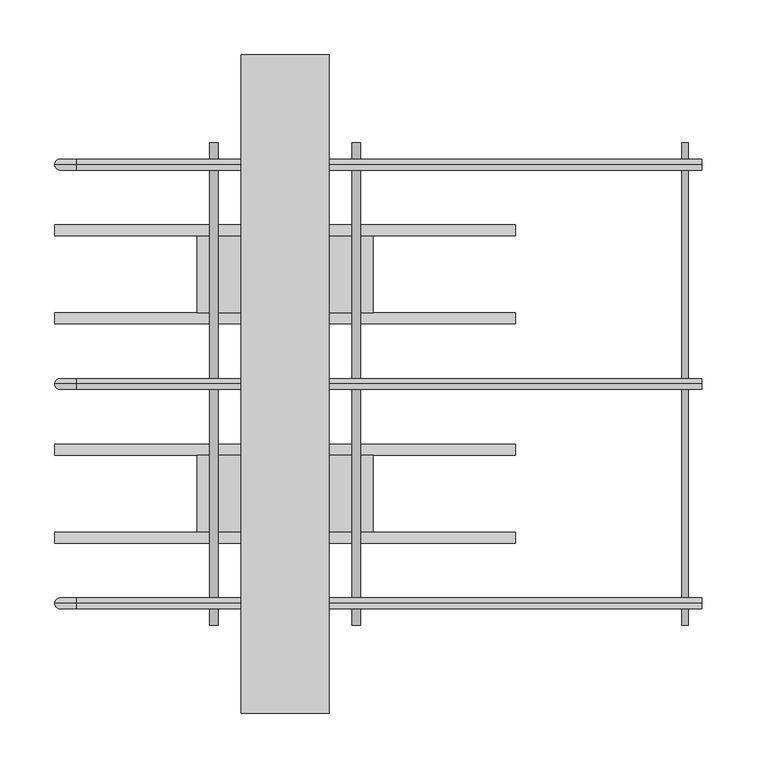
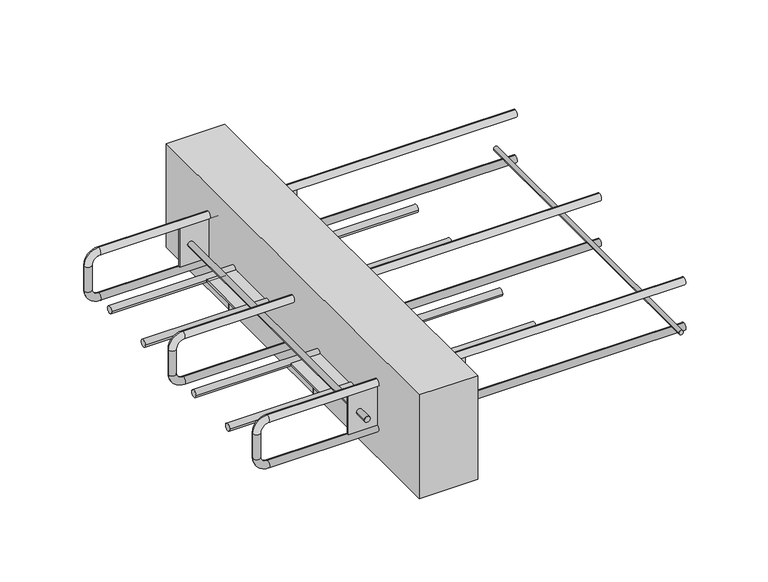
"""IFC4 building model written with IfcOpenShell, lengths in millimetres: proxy geometry, ACINOXplus_Typenreihe_UL-OL : UL+ S2."""

import ifcopenshell
import ifcopenshell.guid

model = None  # the IFC model being written
_history = None  # IfcOwnerHistory: only IFC2X3 demands one
_inside = {}  # id of a spatial element -> (the spatial element, [elements in it])
_under = {}  # id of a project, library or spatial element -> (it, [spatial elements below it])
_declared = {}  # id of a project -> (the project, [libraries it declares])
_typed = {}  # id of a type object -> (the type object, [elements of that type])
_made_of = {}  # id of a material, layer set ... -> (it, [elements and type objects made of it])


def new_model(schema):
    """Start an empty IFC model of exactly this schema.

    Asked for "IFC4X3", IfcOpenShell would pick the latest addendum, in which some entities
    have other attributes; the version numbers below select the first issue.
    IFC2X3 requires an IfcOwnerHistory on every rooted entity: one is made here for all.
    """
    global model, _history
    if schema == "IFC4X3":
        model = ifcopenshell.file(schema_version=(4, 3, 0, 0))
    else:
        model = ifcopenshell.file(schema=schema)
    _inside.clear()
    _under.clear()
    _declared.clear()
    _typed.clear()
    _made_of.clear()
    _history = None
    if model.schema == "IFC2X3":
        org = make("IfcOrganization", Name="unknown")
        user = make(
            "IfcPersonAndOrganization",
            ThePerson=make("IfcPerson", FamilyName="unknown"),
            TheOrganization=org,
        )
        app = make(
            "IfcApplication",
            ApplicationDeveloper=org,
            Version="unknown",
            ApplicationFullName="unknown",
            ApplicationIdentifier="unknown",
        )
        _history = make(
            "IfcOwnerHistory",
            OwningUser=user,
            OwningApplication=app,
            ChangeAction="ADDED",
            CreationDate=0,
        )
    return model


def make(cls, **values):
    """One entity of the class cls with the attributes given. An attribute that is None is left unset."""
    return model.create_entity(
        cls, **{name: value for name, value in values.items() if value is not None}
    )


def rooted(cls, **values):
    """An entity with a GlobalId (a new one), such as an element, a storey or a relation."""
    return make(cls, GlobalId=ifcopenshell.guid.new(), OwnerHistory=_history, **values)


def si_unit(unit_type, name, prefix=None):
    """IfcSIUnit, for example si_unit("LENGTHUNIT", "METRE", prefix="MILLI")."""
    return make("IfcSIUnit", UnitType=unit_type, Prefix=prefix, Name=name)


def assignment(units):
    """IfcUnitAssignment: the units of a project."""
    return None if units is None else make("IfcUnitAssignment", Units=units)


def point(xyz):
    """IfcCartesianPoint."""
    return None if xyz is None else make("IfcCartesianPoint", Coordinates=xyz)


def direction(xyz):
    """IfcDirection."""
    return None if xyz is None else make("IfcDirection", DirectionRatios=xyz)


def frame(location, z_axis=None, x_axis=None):
    """IfcAxis2Placement3D, a coordinate frame: its origin and axes. An axis left out is left unset."""
    return make(
        "IfcAxis2Placement3D",
        Location=point(location),
        Axis=direction(z_axis),
        RefDirection=direction(x_axis),
    )


def frame_2d(location, x_axis=None):
    """IfcAxis2Placement2D, a coordinate frame in the plane: its origin and x axis."""
    return make(
        "IfcAxis2Placement2D", Location=point(location), RefDirection=direction(x_axis)
    )


def origin():
    """The frame at (0, 0, 0) with its axes left unset."""
    return frame((0.0, 0.0, 0.0))


def place(relative_to, where):
    """IfcLocalPlacement: puts the frame where relative to a parent placement (None: the world)."""
    return make(
        "IfcLocalPlacement", PlacementRelTo=relative_to, RelativePlacement=where
    )


def context(
    kind, dimensions, precision=None, world=None, true_north=None, identifier=None
):
    """IfcGeometricRepresentationContext, for example the 3D "Model" context."""
    return make(
        "IfcGeometricRepresentationContext",
        ContextIdentifier=identifier,
        ContextType=kind,
        CoordinateSpaceDimension=dimensions,
        Precision=precision,
        WorldCoordinateSystem=world,
        TrueNorth=true_north,
    )


def project(units=None, contexts=None):
    """IfcProject with its units and contexts."""
    return rooted(
        "IfcProject",
        Name="project",
        RepresentationContexts=contexts,
        UnitsInContext=assignment(units),
    )


def spatial(cls, under=None, at=None, **own):
    """A site, building, storey or space (cls), placed at a placement, below another one or the project."""
    s = rooted(cls, ObjectPlacement=at, **own)
    if under is not None:
        _under.setdefault(under.id(), (under, []))[1].append(s)
    return s


def polyline(points):
    """IfcPolyline through the points."""
    return make("IfcPolyline", Points=[point(p) for p in points])


def circle_curve(where, radius):
    """IfcCircle in the frame where."""
    return make("IfcCircle", Position=where, Radius=radius)


def ellipse_curve(where, semi_axis1, semi_axis2):
    """IfcEllipse in the frame where."""
    return make(
        "IfcEllipse", Position=where, SemiAxis1=semi_axis1, SemiAxis2=semi_axis2
    )


def trimmed(basis, trim1, trim2, sense, master):
    """IfcTrimmedCurve: the piece of a basis curve between two trims."""
    return make(
        "IfcTrimmedCurve",
        BasisCurve=basis,
        Trim1=trim1,
        Trim2=trim2,
        SenseAgreement=sense,
        MasterRepresentation=master,
    )


def segment(curve, same_sense, transition):
    """IfcCompositeCurveSegment."""
    return make(
        "IfcCompositeCurveSegment",
        Transition=transition,
        SameSense=same_sense,
        ParentCurve=curve,
    )


def composite_curve(segments, self_intersect=None):
    """IfcCompositeCurve: segments joined end to end."""
    return make("IfcCompositeCurve", Segments=segments, SelfIntersect=self_intersect)


def outline(outer, holes=None, kind="AREA"):
    """IfcArbitraryClosedProfileDef: a profile drawn as a closed curve; with holes, ...WithVoids."""
    if holes is None:
        return make("IfcArbitraryClosedProfileDef", ProfileType=kind, OuterCurve=outer)
    return make(
        "IfcArbitraryProfileDefWithVoids",
        ProfileType=kind,
        OuterCurve=outer,
        InnerCurves=holes,
    )


def extrude(swept, where, along, depth):
    """IfcExtrudedAreaSolid: the profile swept, set in the frame where, extruded along a direction by depth."""
    return make(
        "IfcExtrudedAreaSolid",
        SweptArea=swept,
        Position=where,
        ExtrudedDirection=direction(along),
        Depth=depth,
    )


def shape(context_of_items, identifier, shape_type, items):
    """IfcShapeRepresentation: the items that make up one representation, for example the "Body"."""
    return make(
        "IfcShapeRepresentation",
        ContextOfItems=context_of_items,
        RepresentationIdentifier=identifier,
        RepresentationType=shape_type,
        Items=items,
    )


def source(mapping_origin, context_of_items, identifier, shape_type, items):
    """IfcRepresentationMap: a shape defined once, which mapped items show again and again."""
    return make(
        "IfcRepresentationMap",
        MappingOrigin=mapping_origin,
        MappedRepresentation=shape(context_of_items, identifier, shape_type, items),
    )


def transform(
    local_origin,
    x_axis=None,
    y_axis=None,
    z_axis=None,
    scale=None,
    scale2=None,
    scale3=None,
    uniform=True,
):
    """IfcCartesianTransformationOperator3D, or its non-uniform kind. x_axis, y_axis, z_axis: its Axis1, 2, 3."""
    if uniform:
        return make(
            "IfcCartesianTransformationOperator3D",
            Axis1=direction(x_axis),
            Axis2=direction(y_axis),
            LocalOrigin=point(local_origin),
            Scale=scale,
            Axis3=direction(z_axis),
        )
    return make(
        "IfcCartesianTransformationOperator3DnonUniform",
        Axis1=direction(x_axis),
        Axis2=direction(y_axis),
        LocalOrigin=point(local_origin),
        Scale=scale,
        Axis3=direction(z_axis),
        Scale2=scale2,
        Scale3=scale3,
    )


def mapped(mapping_source, mapping_target):
    """IfcMappedItem: shows the shape of a source again, moved by a transform."""
    return make(
        "IfcMappedItem", MappingSource=mapping_source, MappingTarget=mapping_target
    )


def made_of(thing, what):
    """Note that an element or type object is made of a material, layer set ...; save() writes the relation."""
    if what is not None:
        _made_of.setdefault(what.id(), (what, []))[1].append(thing)
    return thing


def element(
    cls,
    number,
    at=None,
    inside=None,
    cuts=None,
    type_object=None,
    material=None,
    context=None,
    identifier="Body",
    shape_type=None,
    held_by="IfcProductDefinitionShape",
    body=None,
    shapes=None,
    **own,
):
    """One element of the class cls, such as IfcWall. Its Tag is "e" and its number.

    at: its placement. inside: the storey or other place that contains it. cuts: it is an
    opening in that element (IfcRelVoidsElement). A single representation is given by context,
    identifier, shape_type and body (its items); several are given by shapes. held_by: the class
    of the entity that holds the representations. save() writes the other relations.
    """
    e = rooted(cls, Tag="e%d" % number, ObjectPlacement=at, **own)
    if body is not None:
        shapes = [shape(context, identifier, shape_type, body)]
    if shapes is not None:
        e.Representation = make(held_by, Representations=shapes)
    if inside is not None:
        _inside.setdefault(inside.id(), (inside, []))[1].append(e)
    if cuts is not None:
        rooted(
            "IfcRelVoidsElement", RelatingBuildingElement=cuts, RelatedOpeningElement=e
        )
    if type_object is not None:
        _typed.setdefault(type_object.id(), (type_object, []))[1].append(e)
    return made_of(e, material)


def aggregate(whole, parts):
    """IfcRelAggregates: a whole, such as a stair, and the parts it consists of."""
    return rooted("IfcRelAggregates", RelatingObject=whole, RelatedObjects=parts)


def save(model, path):
    """Write the relations noted so far, then the file.

    IfcRelAggregates (storeys below a building ...), IfcRelContainedInSpatialStructure (elements
    in a storey), IfcRelDefinesByType, IfcRelAssociatesMaterial and IfcRelDeclares: one each for
    every whole, place, type object, material and project.
    """
    for whole, parts in _under.values():
        aggregate(whole, parts)
    for where, things in _inside.values():
        rooted(
            "IfcRelContainedInSpatialStructure",
            RelatedElements=things,
            RelatingStructure=where,
        )
    for kind, things in _typed.values():
        rooted("IfcRelDefinesByType", RelatedObjects=things, RelatingType=kind)
    for what, things in _made_of.values():
        rooted("IfcRelAssociatesMaterial", RelatedObjects=things, RelatingMaterial=what)
    for by, libraries in _declared.values():
        rooted("IfcRelDeclares", RelatingContext=by, RelatedDefinitions=libraries)
    model.write(path)


def plane_surface(at):
    """IfcPlane: the flat surface through the origin of the frame at, square to its z axis."""
    return make("IfcPlane", Position=at)


def cylinder_surface(at, radius):
    """IfcCylindricalSurface: all points at the distance radius from the z axis of the frame at."""
    return make("IfcCylindricalSurface", Position=at, Radius=radius)


def revolved_surface(curve, axis_point, axis_direction):
    """IfcSurfaceOfRevolution: the curve turned about the line through axis_point along axis_direction."""
    return make(
        "IfcSurfaceOfRevolution",
        SweptCurve=make("IfcArbitraryOpenProfileDef", ProfileType="CURVE", Curve=curve),
        AxisPosition=make("IfcAxis1Placement", Location=point(axis_point), Axis=direction(axis_direction)),
    )


def advanced_brep(points, edges, surfaces, faces):
    """IfcAdvancedBrep: a solid bounded by faces that lie on surfaces and meet in shared edges.

    An edge is (start, end): straight between two places in points (the first is 0);
    or (start, end, curve); or (start, end, curve, False) where it runs against its curve.
    A face is (place in surfaces, loops), or (place, loops, False) where it looks against
    its surface's normal. A loop lists edges by number (the first is 1), with a minus sign
    where the edge is run from its end to its start. The first loop is the outer one.
    """
    corners = [point(p) for p in points]
    vertices = [make("IfcVertexPoint", VertexGeometry=c) for c in corners]
    made = []
    for start, end, *more in edges:
        made.append(
            make(
                "IfcEdgeCurve",
                EdgeStart=vertices[start],
                EdgeEnd=vertices[end],
                EdgeGeometry=more[0] if more else make("IfcPolyline", Points=[corners[start], corners[end]]),
                SameSense=more[1] if len(more) > 1 else True,
            )
        )
    hull = []
    for where, loops, *sense in faces:
        bounds = []
        for j, loop in enumerate(loops):
            ring = [make("IfcOrientedEdge", EdgeElement=made[abs(k) - 1], Orientation=k > 0) for k in loop]
            bounds.append(
                make(
                    "IfcFaceOuterBound" if j == 0 else "IfcFaceBound",
                    Bound=make("IfcEdgeLoop", EdgeList=ring),
                    Orientation=True,
                )
            )
        hull.append(make("IfcAdvancedFace", Bounds=bounds, FaceSurface=surfaces[where], SameSense=sense[0] if sense else True))
    return make("IfcAdvancedBrep", Outer=make("IfcClosedShell", CfsFaces=hull))


def generic_models_30aa5f48(model_context):
    return source(origin(), model_context, "Body", "SolidModel", [
        extrude(outline(composite_curve([segment(trimmed(circle_curve(frame_2d((-100.0, 365.0)), 3.0), [point((-100.0, 368.0))], [point((-100.0, 362.0))], False, "CARTESIAN"), True, "CONTINUOUS"), segment(trimmed(circle_curve(frame_2d((-100.0, 365.0)), 3.0), [point((-100.0, 362.0))], [point((-100.0, 368.0))], False, "CARTESIAN"), True, "CONTINUOUS")], self_intersect=False)), frame((0.0, -220.0, 0.0), z_axis=(0.0, 1.0, 0.0), x_axis=(0.0, 0.0, 1.0)), (0.0, 0.0, 1.0), 440.0),
        extrude(outline(composite_curve([segment(trimmed(circle_curve(frame_2d((-140.0, -84.0)), 5.0), [point((-145.0, -84.0))], [point((-135.0, -84.0))], False, "CARTESIAN"), True, "CONTINUOUS"), segment(trimmed(circle_curve(frame_2d((-140.0, -84.0)), 5.0), [point((-135.0, -84.0))], [point((-145.0, -84.0))], False, "CARTESIAN"), True, "CONTINUOUS")], self_intersect=False)), frame((-210.0, 0.0, 0.0), z_axis=(1.0, 0.0, 0.0), x_axis=(0.0, 1.0, 0.0)), (0.0, 0.0, 1.0), 420.0),
        extrude(outline(composite_curve([segment(trimmed(circle_curve(frame_2d((-60.0, -84.0)), 5.0), [point((-65.0, -84.0))], [point((-55.0, -84.0))], False, "CARTESIAN"), True, "CONTINUOUS"), segment(trimmed(circle_curve(frame_2d((-60.0, -84.0)), 5.0), [point((-55.0, -84.0))], [point((-65.0, -84.0))], False, "CARTESIAN"), True, "CONTINUOUS")], self_intersect=False)), frame((-210.0, 0.0, 0.0), z_axis=(1.0, 0.0, 0.0), x_axis=(0.0, 1.0, 0.0)), (0.0, 0.0, 1.0), 420.0),
        extrude(outline(composite_curve([segment(trimmed(circle_curve(frame_2d((-65.0, -100.0)), 4.0), [point((-69.0, -100.0))], [point((-61.0, -100.0))], False, "CARTESIAN"), True, "CONTINUOUS"), segment(trimmed(circle_curve(frame_2d((-65.0, -100.0)), 4.0), [point((-61.0, -100.0))], [point((-69.0, -100.0))], False, "CARTESIAN"), True, "CONTINUOUS")], self_intersect=False)), frame((0.0, 0.0, -112.0), z_axis=(0.0, 0.0, 1.0), x_axis=(1.0, 0.0, 0.0)), (0.0, 0.0, 1.0), 26.5),
        extrude(outline(composite_curve([segment(trimmed(circle_curve(frame_2d((65.0, -100.0)), 4.0), [point((61.0, -100.0))], [point((69.0, -100.0))], False, "CARTESIAN"), True, "CONTINUOUS"), segment(trimmed(circle_curve(frame_2d((65.0, -100.0)), 4.0), [point((69.0, -100.0))], [point((61.0, -100.0))], False, "CARTESIAN"), True, "CONTINUOUS")], self_intersect=False)), frame((0.0, 0.0, -112.0), z_axis=(0.0, 0.0, 1.0), x_axis=(1.0, 0.0, 0.0)), (0.0, 0.0, 1.0), 26.5),
        extrude(outline(polyline([(80.0, -65.0), (80.0, -135.0), (-80.0, -135.0), (-80.0, -65.0), (80.0, -65.0)])), frame((0.0, 0.0, -85.5), z_axis=(0.0, 0.0, 1.0), x_axis=(1.0, 0.0, 0.0)), (0.0, 0.0, 1.0), 3.0),
        extrude(outline(composite_curve([segment(trimmed(circle_curve(frame_2d((60.0, -84.0)), 5.0), [point((55.0, -84.0))], [point((65.0, -84.0))], False, "CARTESIAN"), True, "CONTINUOUS"), segment(trimmed(circle_curve(frame_2d((60.0, -84.0)), 5.0), [point((65.0, -84.0))], [point((55.0, -84.0))], False, "CARTESIAN"), True, "CONTINUOUS")], self_intersect=False)), frame((-210.0, 0.0, 0.0), z_axis=(1.0, 0.0, 0.0), x_axis=(0.0, 1.0, 0.0)), (0.0, 0.0, 1.0), 420.0),
        extrude(outline(composite_curve([segment(trimmed(circle_curve(frame_2d((140.0, -84.0)), 5.0), [point((135.0, -84.0))], [point((145.0, -84.0))], False, "CARTESIAN"), True, "CONTINUOUS"), segment(trimmed(circle_curve(frame_2d((140.0, -84.0)), 5.0), [point((145.0, -84.0))], [point((135.0, -84.0))], False, "CARTESIAN"), True, "CONTINUOUS")], self_intersect=False)), frame((-210.0, 0.0, 0.0), z_axis=(1.0, 0.0, 0.0), x_axis=(0.0, 1.0, 0.0)), (0.0, 0.0, 1.0), 420.0),
        extrude(outline(composite_curve([segment(trimmed(circle_curve(frame_2d((-65.0, 100.0)), 4.0), [point((-69.0, 100.0))], [point((-61.0, 100.0))], False, "CARTESIAN"), True, "CONTINUOUS"), segment(trimmed(circle_curve(frame_2d((-65.0, 100.0)), 4.0), [point((-61.0, 100.0))], [point((-69.0, 100.0))], False, "CARTESIAN"), True, "CONTINUOUS")], self_intersect=False)), frame((0.0, 0.0, -112.0), z_axis=(0.0, 0.0, 1.0), x_axis=(1.0, 0.0, 0.0)), (0.0, 0.0, 1.0), 26.5),
        extrude(outline(composite_curve([segment(trimmed(circle_curve(frame_2d((65.0, 100.0)), 4.0), [point((61.0, 100.0))], [point((69.0, 100.0))], False, "CARTESIAN"), True, "CONTINUOUS"), segment(trimmed(circle_curve(frame_2d((65.0, 100.0)), 4.0), [point((69.0, 100.0))], [point((61.0, 100.0))], False, "CARTESIAN"), True, "CONTINUOUS")], self_intersect=False)), frame((0.0, 0.0, -112.0), z_axis=(0.0, 0.0, 1.0), x_axis=(1.0, 0.0, 0.0)), (0.0, 0.0, 1.0), 26.5),
        extrude(outline(polyline([(80.0, 135.0), (80.0, 65.0), (-80.0, 65.0), (-80.0, 135.0), (80.0, 135.0)])), frame((0.0, 0.0, -85.5), z_axis=(0.0, 0.0, 1.0), x_axis=(1.0, 0.0, 0.0)), (0.0, 0.0, 1.0), 3.0),
        extrude(outline(polyline([(40.0, 300.0), (40.0, -300.0), (-40.0, -300.0), (-40.0, 300.0), (40.0, 300.0)])), frame((0.0, 0.0, -150.0), z_axis=(0.0, 0.0, 1.0), x_axis=(1.0, 0.0, 0.0)), (0.0, 0.0, 1.0), 150.0),
        extrude(outline(composite_curve([segment(trimmed(circle_curve(frame_2d((-75.0, -65.0)), 4.0), [point((-75.0, -61.0))], [point((-75.0, -69.0))], False, "CARTESIAN"), True, "CONTINUOUS"), segment(trimmed(circle_curve(frame_2d((-75.0, -65.0)), 4.0), [point((-75.0, -69.0))], [point((-75.0, -61.0))], False, "CARTESIAN"), True, "CONTINUOUS")], self_intersect=False)), frame((0.0, -220.0, 0.0), z_axis=(0.0, 1.0, 0.0), x_axis=(0.0, 0.0, 1.0)), (0.0, 0.0, 1.0), 440.0),
        extrude(outline(composite_curve([segment(trimmed(circle_curve(frame_2d((-75.0, 65.0)), 4.0), [point((-75.0, 69.0))], [point((-75.0, 61.0))], False, "CARTESIAN"), True, "CONTINUOUS"), segment(trimmed(circle_curve(frame_2d((-75.0, 65.0)), 4.0), [point((-75.0, 61.0))], [point((-75.0, 69.0))], False, "CARTESIAN"), True, "CONTINUOUS")], self_intersect=False)), frame((0.0, -220.0, 0.0), z_axis=(0.0, 1.0, 0.0), x_axis=(0.0, 0.0, 1.0)), (0.0, 0.0, 1.0), 440.0),
        extrude(outline(polyline([(80.0, -198.5), (80.0, -201.5), (-80.0, -201.5), (-80.0, -198.5), (80.0, -198.5)])), frame((0.0, 0.0, -103.0), z_axis=(0.0, 0.0, 1.0), x_axis=(1.0, 0.0, 0.0)), (0.0, 0.0, 1.0), 56.0),
        extrude(outline(polyline([(80.0, 201.5), (80.0, 198.5), (-80.0, 198.5), (-80.0, 201.5), (80.0, 201.5)])), frame((0.0, 0.0, -103.0), z_axis=(0.0, 0.0, 1.0), x_axis=(1.0, 0.0, 0.0)), (0.0, 0.0, 1.0), 56.0),
        advanced_brep(
        [(380.0, 0.0, -37.0), (380.0, 0.0, -47.0), (-190.0, 0.0, -37.0), (-190.0, 0.0, -47.0), (-200.0, 0.0, -57.0), (-210.0, 0.0, -57.0), (-210.0, 0.0, -93.0), (-200.0, 0.0, -93.0), (-190.0, 0.0, -103.0), (-190.0, 0.0, -113.0), (380.0, 0.0, -113.0), (380.0, 0.0, -103.0)],
        [
            (0, 1, circle_curve(frame((380.0, 0.0, -42.0), z_axis=(1.0, 0.0, 0.0), x_axis=(0.0, 0.0, -1.0)), 5.0)),
            (1, 0, circle_curve(frame((380.0, 0.0, -42.0), z_axis=(1.0, 0.0, 0.0), x_axis=(0.0, 0.0, -1.0)), 5.0)),
            (0, 2),
            (2, 3, circle_curve(frame((-190.0, 0.0, -42.0), z_axis=(1.0, 0.0, 0.0), x_axis=(0.0, 0.0, -1.0)), 5.0)),
            (3, 1),
            (3, 2, circle_curve(frame((-190.0, 0.0, -42.0), z_axis=(1.0, 0.0, 0.0), x_axis=(0.0, 0.0, -1.0)), 5.0)),
            (4, 3, circle_curve(frame((-190.0, 0.0, -57.0), z_axis=(0.0, 1.0, 0.0), x_axis=(0.0, 0.0, 1.0)), 10.0)),
            (2, 5, circle_curve(frame((-190.0, 0.0, -57.0), z_axis=(0.0, -1.0, 0.0), x_axis=(0.0, 0.0, 1.0)), 20.0)),
            (5, 4, circle_curve(frame((-205.0, 0.0, -57.0), z_axis=(0.0, 0.0, 1.0), x_axis=(1.0, 0.0, 0.0)), 5.0)),
            (4, 5, circle_curve(frame((-205.0, 0.0, -57.0), z_axis=(0.0, 0.0, 1.0), x_axis=(1.0, 0.0, 0.0)), 5.0)),
            (5, 6),
            (6, 7, circle_curve(frame((-205.0, 0.0, -93.0), z_axis=(0.0, 0.0, 1.0), x_axis=(1.0, 0.0, 0.0)), 5.0)),
            (7, 4),
            (7, 6, circle_curve(frame((-205.0, 0.0, -93.0), z_axis=(0.0, 0.0, 1.0), x_axis=(1.0, 0.0, 0.0)), 5.0)),
            (8, 7, circle_curve(frame((-190.0, 0.0, -93.0), z_axis=(0.0, 1.0, 0.0), x_axis=(-1.0, 0.0, 0.0)), 10.0)),
            (6, 9, circle_curve(frame((-190.0, 0.0, -93.0), z_axis=(0.0, -1.0, 0.0), x_axis=(-1.0, 0.0, 0.0)), 20.0)),
            (9, 8, circle_curve(frame((-190.0, 0.0, -108.0), z_axis=(-1.0, 0.0, 0.0), x_axis=(0.0, 0.0, 1.0)), 5.0)),
            (8, 9, circle_curve(frame((-190.0, 0.0, -108.0), z_axis=(-1.0, 0.0, 0.0), x_axis=(0.0, 0.0, 1.0)), 5.0)),
            (10, 11, circle_curve(frame((380.0, 0.0, -108.0), z_axis=(1.0, 0.0, 0.0), x_axis=(0.0, 0.0, 1.0)), 5.0)),
            (11, 10, circle_curve(frame((380.0, 0.0, -108.0), z_axis=(1.0, 0.0, 0.0), x_axis=(0.0, 0.0, 1.0)), 5.0)),
            (9, 10),
            (11, 8),
        ],
        [
            plane_surface(frame((380.0, 0.0, -42.0), z_axis=(1.0, 0.0, 0.0), x_axis=(0.0, -1.0, 0.0))),
            cylinder_surface(frame((380.0, 0.0, -42.0), z_axis=(1.0, 0.0, 0.0), x_axis=(0.0, 0.0, -1.0)), 5.0),
            revolved_surface(trimmed(ellipse_curve(frame((-190.0, 0.0, -42.0), z_axis=(1.0, 0.0, 0.0), x_axis=(0.0, 0.0, -1.0)), 5.0, 5.0), [point((-190.0, 0.0, -37.0))], [point((-190.0, 0.0, -47.0))], True, "CARTESIAN"), (-190.0, 0.0, -57.0), (0.0, -1.0, 0.0)),
            revolved_surface(trimmed(ellipse_curve(frame((-190.0, 0.0, -42.0), z_axis=(1.0, 0.0, 0.0), x_axis=(0.0, 0.0, -1.0)), 5.0, 5.0), [point((-190.0, 0.0, -47.0))], [point((-190.0, 0.0, -37.0))], True, "CARTESIAN"), (-190.0, 0.0, -57.0), (0.0, -1.0, 0.0)),
            cylinder_surface(frame((-205.0, 0.0, -57.0), z_axis=(0.0, 0.0, 1.0), x_axis=(1.0, 0.0, 0.0)), 5.0),
            revolved_surface(trimmed(ellipse_curve(frame((-205.0, 0.0, -93.0), z_axis=(0.0, 0.0, 1.0), x_axis=(1.0, 0.0, 0.0)), 5.0, 5.0), [point((-210.0, 0.0, -93.0))], [point((-200.0, 0.0, -93.0))], True, "CARTESIAN"), (-190.0, 0.0, -93.0), (0.0, -1.0, 0.0)),
            revolved_surface(trimmed(ellipse_curve(frame((-205.0, 0.0, -93.0), z_axis=(0.0, 0.0, 1.0), x_axis=(1.0, 0.0, 0.0)), 5.0, 5.0), [point((-200.0, 0.0, -93.0))], [point((-210.0, 0.0, -93.0))], True, "CARTESIAN"), (-190.0, 0.0, -93.0), (0.0, -1.0, 0.0)),
            plane_surface(frame((380.0, 0.0, -108.0), z_axis=(1.0, 0.0, 0.0), x_axis=(0.0, -1.0, 0.0))),
            cylinder_surface(frame((-190.0, 0.0, -108.0), z_axis=(-1.0, 0.0, 0.0), x_axis=(0.0, 0.0, 1.0)), 5.0),
        ],
        [
            (0, [[1, 2]]),
            (1, [[-1, 3, 4, 5]]),
            (1, [[-2, -5, 6, -3]]),
            (2, [[7, -4, 8, 9]]),
            (3, [[-8, -6, -7, 10]]),
            (4, [[-9, 11, 12, 13]]),
            (4, [[-10, -13, 14, -11]]),
            (5, [[15, -12, 16, 17]]),
            (6, [[-16, -14, -15, 18]]),
            (7, [[19, 20]]),
            (8, [[-17, 21, -20, 22]]),
            (8, [[-18, -22, -19, -21]]),
        ],
    ),
        advanced_brep(
        [(380.0, 200.0, -37.0), (380.0, 200.0, -47.0), (-190.0, 200.0, -37.0), (-190.0, 200.0, -47.0), (-200.0, 200.0, -57.0), (-210.0, 200.0, -57.0), (-210.0, 200.0, -93.0), (-200.0, 200.0, -93.0), (-190.0, 200.0, -103.0), (-190.0, 200.0, -113.0), (380.0, 200.0, -113.0), (380.0, 200.0, -103.0)],
        [
            (0, 1, circle_curve(frame((380.0, 200.0, -42.0), z_axis=(1.0, 0.0, 0.0), x_axis=(0.0, 0.0, -1.0)), 5.0)),
            (1, 0, circle_curve(frame((380.0, 200.0, -42.0), z_axis=(1.0, 0.0, 0.0), x_axis=(0.0, 0.0, -1.0)), 5.0)),
            (0, 2),
            (2, 3, circle_curve(frame((-190.0, 200.0, -42.0), z_axis=(1.0, 0.0, 0.0), x_axis=(0.0, 0.0, -1.0)), 5.0)),
            (3, 1),
            (3, 2, circle_curve(frame((-190.0, 200.0, -42.0), z_axis=(1.0, 0.0, 0.0), x_axis=(0.0, 0.0, -1.0)), 5.0)),
            (4, 3, circle_curve(frame((-190.0, 200.0, -57.0), z_axis=(0.0, 1.0, 0.0), x_axis=(0.0, 0.0, 1.0)), 10.0)),
            (2, 5, circle_curve(frame((-190.0, 200.0, -57.0), z_axis=(0.0, -1.0, 0.0), x_axis=(0.0, 0.0, 1.0)), 20.0)),
            (5, 4, circle_curve(frame((-205.0, 200.0, -57.0), z_axis=(0.0, 0.0, 1.0), x_axis=(1.0, 0.0, 0.0)), 5.0)),
            (4, 5, circle_curve(frame((-205.0, 200.0, -57.0), z_axis=(0.0, 0.0, 1.0), x_axis=(1.0, 0.0, 0.0)), 5.0)),
            (5, 6),
            (6, 7, circle_curve(frame((-205.0, 200.0, -93.0), z_axis=(0.0, 0.0, 1.0), x_axis=(1.0, 0.0, 0.0)), 5.0)),
            (7, 4),
            (7, 6, circle_curve(frame((-205.0, 200.0, -93.0), z_axis=(0.0, 0.0, 1.0), x_axis=(1.0, 0.0, 0.0)), 5.0)),
            (8, 7, circle_curve(frame((-190.0, 200.0, -93.0), z_axis=(0.0, 1.0, 0.0), x_axis=(-1.0, 0.0, 0.0)), 10.0)),
            (6, 9, circle_curve(frame((-190.0, 200.0, -93.0), z_axis=(0.0, -1.0, 0.0), x_axis=(-1.0, 0.0, 0.0)), 20.0)),
            (9, 8, circle_curve(frame((-190.0, 200.0, -108.0), z_axis=(-1.0, 0.0, 0.0), x_axis=(0.0, 0.0, 1.0)), 5.0)),
            (8, 9, circle_curve(frame((-190.0, 200.0, -108.0), z_axis=(-1.0, 0.0, 0.0), x_axis=(0.0, 0.0, 1.0)), 5.0)),
            (10, 11, circle_curve(frame((380.0, 200.0, -108.0), z_axis=(1.0, 0.0, 0.0), x_axis=(0.0, 0.0, 1.0)), 5.0)),
            (11, 10, circle_curve(frame((380.0, 200.0, -108.0), z_axis=(1.0, 0.0, 0.0), x_axis=(0.0, 0.0, 1.0)), 5.0)),
            (9, 10),
            (11, 8),
        ],
        [
            plane_surface(frame((380.0, 200.0, -42.0), z_axis=(1.0, 0.0, 0.0), x_axis=(0.0, -1.0, 0.0))),
            cylinder_surface(frame((380.0, 200.0, -42.0), z_axis=(1.0, 0.0, 0.0), x_axis=(0.0, 0.0, -1.0)), 5.0),
            revolved_surface(trimmed(ellipse_curve(frame((-190.0, 200.0, -42.0), z_axis=(1.0, 0.0, 0.0), x_axis=(0.0, 0.0, -1.0)), 5.0, 5.0), [point((-190.0, 200.0, -37.0))], [point((-190.0, 200.0, -47.0))], True, "CARTESIAN"), (-190.0, 200.0, -57.0), (0.0, -1.0, 0.0)),
            revolved_surface(trimmed(ellipse_curve(frame((-190.0, 200.0, -42.0), z_axis=(1.0, 0.0, 0.0), x_axis=(0.0, 0.0, -1.0)), 5.0, 5.0), [point((-190.0, 200.0, -47.0))], [point((-190.0, 200.0, -37.0))], True, "CARTESIAN"), (-190.0, 200.0, -57.0), (0.0, -1.0, 0.0)),
            cylinder_surface(frame((-205.0, 200.0, -57.0), z_axis=(0.0, 0.0, 1.0), x_axis=(1.0, 0.0, 0.0)), 5.0),
            revolved_surface(trimmed(ellipse_curve(frame((-205.0, 200.0, -93.0), z_axis=(0.0, 0.0, 1.0), x_axis=(1.0, 0.0, 0.0)), 5.0, 5.0), [point((-210.0, 200.0, -93.0))], [point((-200.0, 200.0, -93.0))], True, "CARTESIAN"), (-190.0, 200.0, -93.0), (0.0, -1.0, 0.0)),
            revolved_surface(trimmed(ellipse_curve(frame((-205.0, 200.0, -93.0), z_axis=(0.0, 0.0, 1.0), x_axis=(1.0, 0.0, 0.0)), 5.0, 5.0), [point((-200.0, 200.0, -93.0))], [point((-210.0, 200.0, -93.0))], True, "CARTESIAN"), (-190.0, 200.0, -93.0), (0.0, -1.0, 0.0)),
            plane_surface(frame((380.0, 200.0, -108.0), z_axis=(1.0, 0.0, 0.0), x_axis=(0.0, -1.0, 0.0))),
            cylinder_surface(frame((-190.0, 200.0, -108.0), z_axis=(-1.0, 0.0, 0.0), x_axis=(0.0, 0.0, 1.0)), 5.0),
        ],
        [
            (0, [[1, 2]]),
            (1, [[-1, 3, 4, 5]]),
            (1, [[-2, -5, 6, -3]]),
            (2, [[7, -4, 8, 9]]),
            (3, [[-8, -6, -7, 10]]),
            (4, [[-9, 11, 12, 13]]),
            (4, [[-10, -13, 14, -11]]),
            (5, [[15, -12, 16, 17]]),
            (6, [[-16, -14, -15, 18]]),
            (7, [[19, 20]]),
            (8, [[-17, 21, -20, 22]]),
            (8, [[-18, -22, -19, -21]]),
        ],
    ),
        advanced_brep(
        [(380.0, -200.0, -37.0), (380.0, -200.0, -47.0), (-190.0, -200.0, -37.0), (-190.0, -200.0, -47.0), (-200.0, -200.0, -57.0), (-210.0, -200.0, -57.0), (-210.0, -200.0, -93.0), (-200.0, -200.0, -93.0), (-190.0, -200.0, -103.0), (-190.0, -200.0, -113.0), (380.0, -200.0, -113.0), (380.0, -200.0, -103.0)],
        [
            (0, 1, circle_curve(frame((380.0, -200.0, -42.0), z_axis=(1.0, 0.0, 0.0), x_axis=(0.0, 0.0, -1.0)), 5.0)),
            (1, 0, circle_curve(frame((380.0, -200.0, -42.0), z_axis=(1.0, 0.0, 0.0), x_axis=(0.0, 0.0, -1.0)), 5.0)),
            (0, 2),
            (2, 3, circle_curve(frame((-190.0, -200.0, -42.0), z_axis=(1.0, 0.0, 0.0), x_axis=(0.0, 0.0, -1.0)), 5.0)),
            (3, 1),
            (3, 2, circle_curve(frame((-190.0, -200.0, -42.0), z_axis=(1.0, 0.0, 0.0), x_axis=(0.0, 0.0, -1.0)), 5.0)),
            (4, 3, circle_curve(frame((-190.0, -200.0, -57.0), z_axis=(0.0, 1.0, 0.0), x_axis=(0.0, 0.0, 1.0)), 10.0)),
            (2, 5, circle_curve(frame((-190.0, -200.0, -57.0), z_axis=(0.0, -1.0, 0.0), x_axis=(0.0, 0.0, 1.0)), 20.0)),
            (5, 4, circle_curve(frame((-205.0, -200.0, -57.0), z_axis=(0.0, 0.0, 1.0), x_axis=(1.0, 0.0, 0.0)), 5.0)),
            (4, 5, circle_curve(frame((-205.0, -200.0, -57.0), z_axis=(0.0, 0.0, 1.0), x_axis=(1.0, 0.0, 0.0)), 5.0)),
            (5, 6),
            (6, 7, circle_curve(frame((-205.0, -200.0, -93.0), z_axis=(0.0, 0.0, 1.0), x_axis=(1.0, 0.0, 0.0)), 5.0)),
            (7, 4),
            (7, 6, circle_curve(frame((-205.0, -200.0, -93.0), z_axis=(0.0, 0.0, 1.0), x_axis=(1.0, 0.0, 0.0)), 5.0)),
            (8, 7, circle_curve(frame((-190.0, -200.0, -93.0), z_axis=(0.0, 1.0, 0.0), x_axis=(-1.0, 0.0, 0.0)), 10.0)),
            (6, 9, circle_curve(frame((-190.0, -200.0, -93.0), z_axis=(0.0, -1.0, 0.0), x_axis=(-1.0, 0.0, 0.0)), 20.0)),
            (9, 8, circle_curve(frame((-190.0, -200.0, -108.0), z_axis=(-1.0, 0.0, 0.0), x_axis=(0.0, 0.0, 1.0)), 5.0)),
            (8, 9, circle_curve(frame((-190.0, -200.0, -108.0), z_axis=(-1.0, 0.0, 0.0), x_axis=(0.0, 0.0, 1.0)), 5.0)),
            (10, 11, circle_curve(frame((380.0, -200.0, -108.0), z_axis=(1.0, 0.0, 0.0), x_axis=(0.0, 0.0, 1.0)), 5.0)),
            (11, 10, circle_curve(frame((380.0, -200.0, -108.0), z_axis=(1.0, 0.0, 0.0), x_axis=(0.0, 0.0, 1.0)), 5.0)),
            (9, 10),
            (11, 8),
        ],
        [
            plane_surface(frame((380.0, -200.0, -42.0), z_axis=(1.0, 0.0, 0.0), x_axis=(0.0, -1.0, 0.0))),
            cylinder_surface(frame((380.0, -200.0, -42.0), z_axis=(1.0, 0.0, 0.0), x_axis=(0.0, 0.0, -1.0)), 5.0),
            revolved_surface(trimmed(ellipse_curve(frame((-190.0, -200.0, -42.0), z_axis=(1.0, 0.0, 0.0), x_axis=(0.0, 0.0, -1.0)), 5.0, 5.0), [point((-190.0, -200.0, -37.0))], [point((-190.0, -200.0, -47.0))], True, "CARTESIAN"), (-190.0, -200.0, -57.0), (0.0, -1.0, 0.0)),
            revolved_surface(trimmed(ellipse_curve(frame((-190.0, -200.0, -42.0), z_axis=(1.0, 0.0, 0.0), x_axis=(0.0, 0.0, -1.0)), 5.0, 5.0), [point((-190.0, -200.0, -47.0))], [point((-190.0, -200.0, -37.0))], True, "CARTESIAN"), (-190.0, -200.0, -57.0), (0.0, -1.0, 0.0)),
            cylinder_surface(frame((-205.0, -200.0, -57.0), z_axis=(0.0, 0.0, 1.0), x_axis=(1.0, 0.0, 0.0)), 5.0),
            revolved_surface(trimmed(ellipse_curve(frame((-205.0, -200.0, -93.0), z_axis=(0.0, 0.0, 1.0), x_axis=(1.0, 0.0, 0.0)), 5.0, 5.0), [point((-210.0, -200.0, -93.0))], [point((-200.0, -200.0, -93.0))], True, "CARTESIAN"), (-190.0, -200.0, -93.0), (0.0, -1.0, 0.0)),
            revolved_surface(trimmed(ellipse_curve(frame((-205.0, -200.0, -93.0), z_axis=(0.0, 0.0, 1.0), x_axis=(1.0, 0.0, 0.0)), 5.0, 5.0), [point((-200.0, -200.0, -93.0))], [point((-210.0, -200.0, -93.0))], True, "CARTESIAN"), (-190.0, -200.0, -93.0), (0.0, -1.0, 0.0)),
            plane_surface(frame((380.0, -200.0, -108.0), z_axis=(1.0, 0.0, 0.0), x_axis=(0.0, -1.0, 0.0))),
            cylinder_surface(frame((-190.0, -200.0, -108.0), z_axis=(-1.0, 0.0, 0.0), x_axis=(0.0, 0.0, 1.0)), 5.0),
        ],
        [
            (0, [[1, 2]]),
            (1, [[-1, 3, 4, 5]]),
            (1, [[-2, -5, 6, -3]]),
            (2, [[7, -4, 8, 9]]),
            (3, [[-8, -6, -7, 10]]),
            (4, [[-9, 11, 12, 13]]),
            (4, [[-10, -13, 14, -11]]),
            (5, [[15, -12, 16, 17]]),
            (6, [[-16, -14, -15, 18]]),
            (7, [[19, 20]]),
            (8, [[-17, 21, -20, 22]]),
            (8, [[-18, -22, -19, -21]]),
        ],
    ),
    ])


if __name__ == "__main__":
    model = new_model("IFC4")
    model_context = context("Model", 3, world=origin())
    ifc_project = project(units=[si_unit("LENGTHUNIT", "METRE", prefix="MILLI")], contexts=[model_context])
    site = spatial("IfcSite", under=ifc_project)
    building = spatial("IfcBuilding", under=site)
    placement = place(None, origin())
    generic_models_shape = generic_models_30aa5f48(model_context)
    element("IfcBuildingElementProxy", 1, Name="ACINOXplus_Typenreihe_UL-OL : UL+ S2", ObjectType="ACINOXplus_Typenreihe_UL-OL : UL+ S2", at=placement, inside=building, context=model_context, shape_type="MappedRepresentation", body=[
        mapped(generic_models_shape, transform((0.0, 0.0, 0.0), x_axis=(1.0, 0.0, 0.0), y_axis=(0.0, 1.0, 0.0), z_axis=(0.0, 0.0, 1.0))),
    ])
    save(model, "model.ifc")
